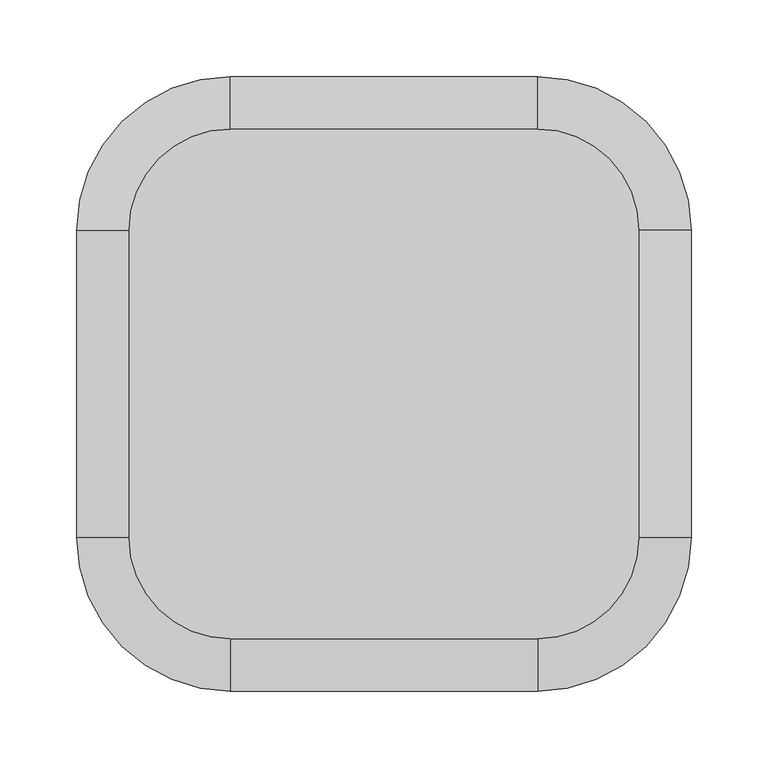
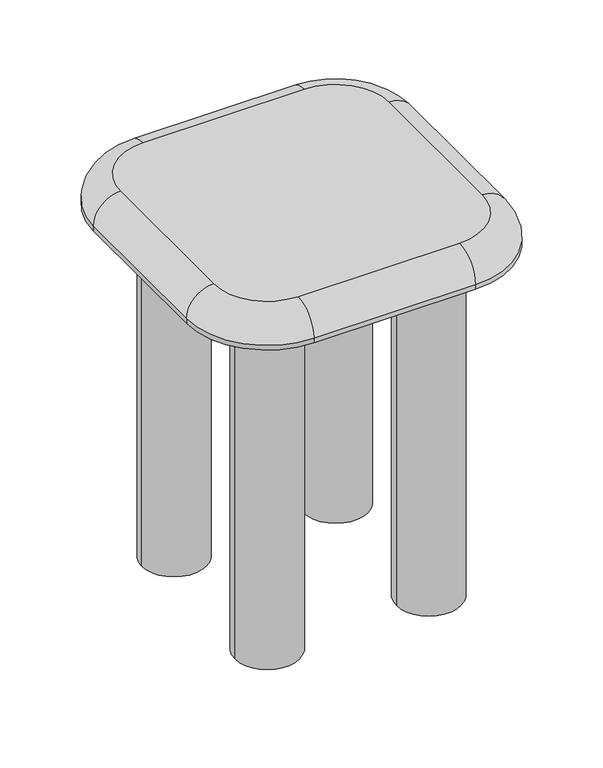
"""IFC4 building model written with IfcOpenShell, lengths in millimetres: furniture geometry, Fredericia - Islet Side Table - 6770 : Fredericia - Islet Side Table - 6770."""

from ifc_helpers import new_model, si_unit, point, frame, frame_2d, origin, origin_with_axes, place, context, project, spatial, circle_curve, ellipse_curve, trimmed, segment, composite_curve, outline, extrude, source, transform, mapped, element, save
from ifc_brep_helpers import plane_surface, cylinder_surface, revolved_surface, advanced_brep


def furniture_965ba35b(model_context):
    return source(origin(), model_context, "Body", "SolidModel", [
        extrude(outline(composite_curve([segment(trimmed(circle_curve(frame_2d((-100.0, -100.0)), 40.0), [point((-140.0, -100.0))], [point((-60.0, -100.0))], False, "CARTESIAN"), True, "CONTINUOUS"), segment(trimmed(circle_curve(frame_2d((-100.0, -100.0)), 40.0), [point((-60.0, -100.0))], [point((-140.0, -100.0))], False, "CARTESIAN"), True, "CONTINUOUS")], self_intersect=False)), origin_with_axes(), (0.0, 0.0, 1.0), 460.0),
        extrude(outline(composite_curve([segment(trimmed(circle_curve(frame_2d((100.0, -100.0)), 40.0), [point((140.0, -100.0))], [point((60.0, -100.0))], False, "CARTESIAN"), True, "CONTINUOUS"), segment(trimmed(circle_curve(frame_2d((100.0, -100.0)), 40.0), [point((60.0, -100.0))], [point((140.0, -100.0))], False, "CARTESIAN"), True, "CONTINUOUS")], self_intersect=False)), origin_with_axes(), (0.0, 0.0, 1.0), 460.0),
        extrude(outline(composite_curve([segment(trimmed(circle_curve(frame_2d((-100.0, 100.0)), 40.0), [point((-140.0, 100.0))], [point((-60.0, 100.0))], False, "CARTESIAN"), True, "CONTINUOUS"), segment(trimmed(circle_curve(frame_2d((-100.0, 100.0)), 40.0), [point((-60.0, 100.0))], [point((-140.0, 100.0))], False, "CARTESIAN"), True, "CONTINUOUS")], self_intersect=False)), origin_with_axes(), (0.0, 0.0, 1.0), 460.0),
        extrude(outline(composite_curve([segment(trimmed(circle_curve(frame_2d((100.0, 100.0)), 40.0), [point((140.0, 100.0))], [point((60.0, 100.0))], False, "CARTESIAN"), True, "CONTINUOUS"), segment(trimmed(circle_curve(frame_2d((100.0, 100.0)), 40.0), [point((60.0, 100.0))], [point((140.0, 100.0))], False, "CARTESIAN"), True, "CONTINUOUS")], self_intersect=False)), origin_with_axes(), (0.0, 0.0, 1.0), 460.0),
        advanced_brep(
        [(-166.0, -100.0, 500.0), (-100.0, -166.0, 500.0), (100.0, -166.0, 500.0), (166.0, -100.0, 500.0), (166.0, 100.0, 500.0), (100.0, 166.0, 500.0), (-100.0, 166.0, 500.0), (-166.0, 100.0, 500.0), (100.0, 200.0, 460.0), (200.0, 100.0, 460.0), (200.0, -100.0, 460.0), (100.0, -200.0, 460.0), (-100.0, -200.0, 460.0), (-200.0, -100.0, 460.0), (-200.0, 100.0, 460.0), (-100.0, 200.0, 460.0), (-100.0, 200.0, 465.0), (-100.0, 200.0, 466.0), (100.0, 200.0, 466.0), (100.0, 200.0, 465.0), (-200.0, 100.0, 465.0), (-200.0, 100.0, 466.0000377), (-200.0, -100.0, 465.0), (-200.0, -100.0, 466.0000377), (-100.0, -200.0, 465.0), (-100.0, -200.0, 466.0000377), (100.0, -200.0, 465.0), (100.0, -200.0, 466.0), (200.0, -100.0, 465.0), (200.0, -100.0, 466.0000377), (200.0, 100.0, 465.0), (200.0, 100.0, 466.0)],
        [
            (0, 1, circle_curve(frame((-100.0, -100.0, 500.0), z_axis=(0.0, 0.0, 1.0), x_axis=(-1.0, 0.0, 0.0)), 66.0)),
            (1, 2),
            (2, 3, circle_curve(frame((100.0, -100.0, 500.0), z_axis=(0.0, 0.0, 1.0), x_axis=(0.0, -1.0, 0.0)), 66.0)),
            (3, 4),
            (4, 5, circle_curve(frame((100.0, 100.0, 500.0), z_axis=(0.0, 0.0, 1.0), x_axis=(1.0, 0.0, 0.0)), 66.0)),
            (5, 6),
            (6, 7, circle_curve(frame((-100.0, 100.0, 500.0), z_axis=(0.0, 0.0, 1.0), x_axis=(0.0, 1.0, 0.0)), 66.0)),
            (7, 0),
            (8, 9, circle_curve(frame((100.0, 100.0, 460.0), z_axis=(0.0, 0.0, -1.0), x_axis=(1.0, 0.0, 0.0)), 100.0)),
            (9, 10),
            (10, 11, circle_curve(frame((100.0, -100.0, 460.0), z_axis=(0.0, 0.0, -1.0), x_axis=(1.0, 0.0, 0.0)), 100.0)),
            (11, 12),
            (12, 13, circle_curve(frame((-100.0, -100.0, 460.0), z_axis=(0.0, 0.0, -1.0), x_axis=(1.0, 0.0, 0.0)), 100.0)),
            (13, 14),
            (14, 15, circle_curve(frame((-100.0, 100.0, 460.0), z_axis=(0.0, 0.0, -1.0), x_axis=(1.0, 0.0, 0.0)), 100.0)),
            (15, 8),
            (15, 16),
            (16, 17),
            (17, 18),
            (18, 19),
            (19, 8),
            (14, 20),
            (20, 21),
            (21, 17, circle_curve(frame((-100.0, 100.0, 466.0), z_axis=(0.0, 0.0, -1.0), x_axis=(1.0, 0.0, 0.0)), 100.0)),
            (13, 22),
            (22, 23),
            (23, 21),
            (12, 24),
            (24, 25),
            (25, 23, circle_curve(frame((-100.0, -100.0, 466.0), z_axis=(0.0, 0.0, -1.0), x_axis=(1.0, 0.0, 0.0)), 100.0)),
            (11, 26),
            (26, 27),
            (27, 25),
            (10, 28),
            (28, 29),
            (29, 27, circle_curve(frame((100.0, -100.0, 466.0), z_axis=(0.0, 0.0, -1.0), x_axis=(1.0, 0.0, 0.0)), 100.0)),
            (9, 30),
            (30, 31),
            (31, 29),
            (18, 31, circle_curve(frame((100.0, 100.0, 466.0), z_axis=(0.0, 0.0, -1.0), x_axis=(1.0, 0.0, 0.0)), 100.0)),
            (25, 1, circle_curve(frame((-100.0, -166.0, 466.0), z_axis=(-1.0, 0.0, 0.0), x_axis=(0.0, 1.0, 0.0)), 34.0)),
            (0, 23, circle_curve(frame((-166.0, -100.0, 466.0), z_axis=(0.0, -1.0, 0.0), x_axis=(1.0, 0.0, 0.0)), 34.0)),
            (27, 2, circle_curve(frame((100.0, -166.0, 466.0), z_axis=(-1.0, 0.0, 0.0), x_axis=(0.0, 1.0, 0.0)), 34.0)),
            (29, 3, circle_curve(frame((166.0, -100.0, 466.0), z_axis=(0.0, -1.0, 0.0), x_axis=(-1.0, 0.0, 0.0)), 34.0)),
            (31, 4, circle_curve(frame((166.0, 100.0, 466.0), z_axis=(0.0, -1.0, 0.0), x_axis=(-1.0, 0.0, 0.0)), 34.0)),
            (18, 5, circle_curve(frame((100.0, 166.0, 466.0), z_axis=(1.0, 0.0, 0.0), x_axis=(0.0, -1.0, 0.0)), 34.0)),
            (17, 6, circle_curve(frame((-100.0, 166.0, 466.0), z_axis=(1.0, 0.0, 0.0), x_axis=(0.0, -1.0, 0.0)), 34.0)),
            (21, 7, circle_curve(frame((-166.0, 100.0, 466.0), z_axis=(0.0, 1.0, 0.0), x_axis=(1.0, 0.0, 0.0)), 34.0)),
        ],
        [
            plane_surface(frame((-200.0, 200.0, 500.0), z_axis=(0.0, 0.0, 1.0), x_axis=(-1.0, 0.0, 0.0))),
            plane_surface(frame((-200.0, 200.0, 460.0), z_axis=(0.0, 0.0, -1.0), x_axis=(1.0, 0.0, 0.0))),
            plane_surface(frame((100.0, 200.0, 500.0), z_axis=(0.0, 1.0, 0.0), x_axis=(0.0, 0.0, -1.0))),
            cylinder_surface(frame((-100.0, 100.0, 460.0), z_axis=(0.0, 0.0, 1.0), x_axis=(1.0, 0.0, 0.0)), 100.0),
            plane_surface(frame((-200.0, 100.0, 500.0), z_axis=(-1.0, 0.0, 0.0), x_axis=(0.0, 0.0, -1.0))),
            cylinder_surface(frame((-100.0, -100.0, 460.0), z_axis=(0.0, 0.0, 1.0), x_axis=(1.0, 0.0, 0.0)), 100.0),
            plane_surface(frame((-100.0, -200.0, 500.0), z_axis=(0.0, -1.0, 0.0), x_axis=(0.0, 0.0, -1.0))),
            cylinder_surface(frame((100.0, -100.0, 460.0), z_axis=(0.0, 0.0, 1.0), x_axis=(1.0, 0.0, 0.0)), 100.0),
            plane_surface(frame((200.0, -100.0, 500.0), z_axis=(1.0, 0.0, 0.0), x_axis=(0.0, 0.0, -1.0))),
            cylinder_surface(frame((100.0, 100.0, 460.0), z_axis=(0.0, 0.0, 1.0), x_axis=(1.0, 0.0, 0.0)), 100.0),
            revolved_surface(trimmed(ellipse_curve(frame((-166.0, -100.0, 466.0), z_axis=(0.0, 1.0, 0.0), x_axis=(1.0, 0.0, 0.0)), 34.0, 34.0), [point((-200.0, -100.0, 466.0))], [point((-166.0, -100.0, 500.0))], True, "CARTESIAN"), (-100.0, -100.0, 0.0), (0.0, 0.0, 1.0)),
            cylinder_surface(frame((-100.0, -166.0, 466.0), z_axis=(1.0, 0.0, 0.0), x_axis=(0.0, 1.0, 0.0)), 34.0),
            revolved_surface(trimmed(ellipse_curve(frame((100.0, -166.0, 466.0), z_axis=(-1.0, 0.0, 0.0), x_axis=(0.0, 1.0, 0.0)), 34.0, 34.0), [point((100.0, -200.0, 466.0))], [point((100.0, -166.0, 500.0))], True, "CARTESIAN"), (100.0, -100.0, 0.0), (0.0, 0.0, 1.0)),
            cylinder_surface(frame((166.0, -100.0, 466.0), z_axis=(0.0, 1.0, 0.0), x_axis=(-1.0, 0.0, 0.0)), 34.0),
            revolved_surface(trimmed(ellipse_curve(frame((166.0, 100.0, 466.0), z_axis=(0.0, -1.0, 0.0), x_axis=(-1.0, 0.0, 0.0)), 34.0, 34.0), [point((200.0, 100.0, 466.0))], [point((166.0, 100.0, 500.0))], True, "CARTESIAN"), (100.0, 100.0, 0.0), (0.0, 0.0, 1.0)),
            cylinder_surface(frame((100.0, 166.0, 466.0), z_axis=(-1.0, 0.0, 0.0), x_axis=(0.0, -1.0, 0.0)), 34.0),
            revolved_surface(trimmed(ellipse_curve(frame((-100.0, 166.0, 466.0), z_axis=(1.0, 0.0, 0.0), x_axis=(0.0, -1.0, 0.0)), 34.0, 34.0), [point((-100.0, 200.0, 466.0))], [point((-100.0, 166.0, 500.0))], True, "CARTESIAN"), (-100.0, 100.0, 0.0), (0.0, 0.0, 1.0)),
            cylinder_surface(frame((-166.0, 100.0, 466.0), z_axis=(0.0, -1.0, 0.0), x_axis=(1.0, 0.0, 0.0)), 34.0),
        ],
        [
            (0, [[1, 2, 3, 4, 5, 6, 7, 8]]),
            (1, [[9, 10, 11, 12, 13, 14, 15, 16]]),
            (2, [[-16, 17, 18, 19, 20, 21]]),
            (3, [[-15, 22, 23, 24, -18, -17]]),
            (4, [[-14, 25, 26, 27, -23, -22]]),
            (5, [[-13, 28, 29, 30, -26, -25]]),
            (6, [[-12, 31, 32, 33, -29, -28]]),
            (7, [[-11, 34, 35, 36, -32, -31]]),
            (8, [[-10, 37, 38, 39, -35, -34]]),
            (9, [[-9, -21, -20, 40, -38, -37]]),
            (10, [[41, -1, 42, -30]]),
            (11, [[-41, -33, 43, -2]]),
            (12, [[-43, -36, 44, -3]]),
            (13, [[-44, -39, 45, -4]]),
            (14, [[-45, -40, 46, -5]]),
            (15, [[-46, -19, 47, -6]]),
            (16, [[-47, -24, 48, -7]]),
            (17, [[-42, -8, -48, -27]]),
        ],
    ),
    ])


if __name__ == "__main__":
    model = new_model("IFC4")
    model_context = context("Model", 3, world=origin())
    ifc_project = project(units=[si_unit("LENGTHUNIT", "METRE", prefix="MILLI")], contexts=[model_context])
    site = spatial("IfcSite", under=ifc_project)
    building = spatial("IfcBuilding", under=site)
    placement = place(None, origin())
    furniture_shape = furniture_965ba35b(model_context)
    element("IfcFurniture", 1, ObjectType="Fredericia - Islet Side Table - 6770 : Fredericia - Islet Side Table - 6770", at=placement, inside=building, context=model_context, shape_type="MappedRepresentation", body=[
        mapped(furniture_shape, transform((0.0, 0.0, 0.0), x_axis=(1.0, 0.0, 0.0), y_axis=(0.0, 1.0, 0.0), z_axis=(0.0, 0.0, 1.0))),
    ])
    save(model, "model.ifc")
